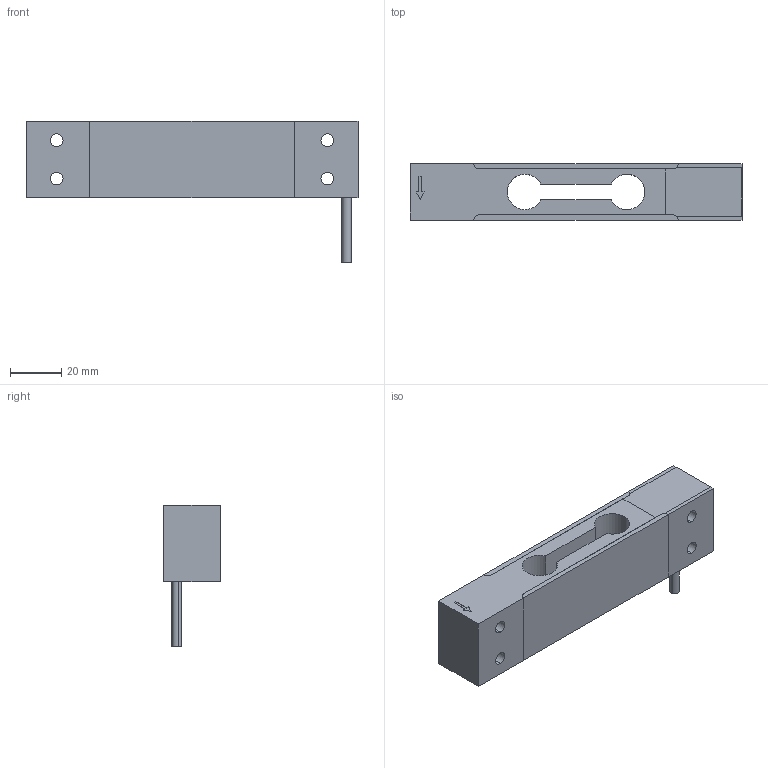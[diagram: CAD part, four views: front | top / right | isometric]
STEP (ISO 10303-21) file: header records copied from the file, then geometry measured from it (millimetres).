
FILE_DESCRIPTION(('FreeCAD Model'),'2;1');
FILE_NAME('Open CASCADE Shape Model','2025-01-29T11:36:43',('Author'),( ''),'Open CASCADE STEP processor 7.6','FreeCAD','Unknown');
FILE_SCHEMA(('AUTOMOTIVE_DESIGN { 1 0 10303 214 1 1 1 1 }'));
Length unit declared in the file: millimetre
Products named in the file (5): NA1-Assembly; Cable; J-box cover_1; Silicon Layer1; 20kg element_1
Assembly tree (5 placements, depth 2):
  NA1-Assembly
    Cable
    J-box cover_1
    Silicon Layer1  x2
    20kg element_1
Bounding box: 130 x 22 x 55.5 mm (x, y, z)
Volume: 70526 mm3; surface area: 31404.6 mm2
Topology: 5 solids, 5 shells, 77 faces, 190 edges, 124 vertices
Faces by surface type: plane 44, cylinder 27, cone 4, bspline 2
Entity records: 2491 total; most frequent: CARTESIAN_POINT 401, DIRECTION 386, ORIENTED_EDGE 356, EDGE_CURVE 178, AXIS2_PLACEMENT_3D 133, LINE 120, VECTOR 120, VERTEX_POINT 116
